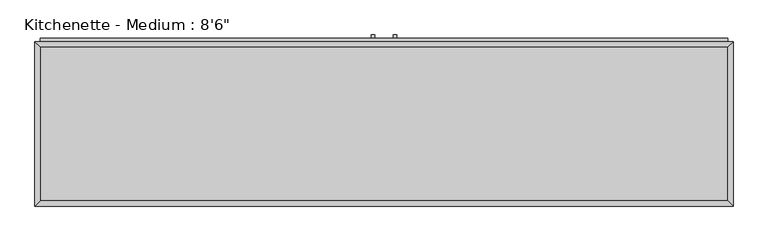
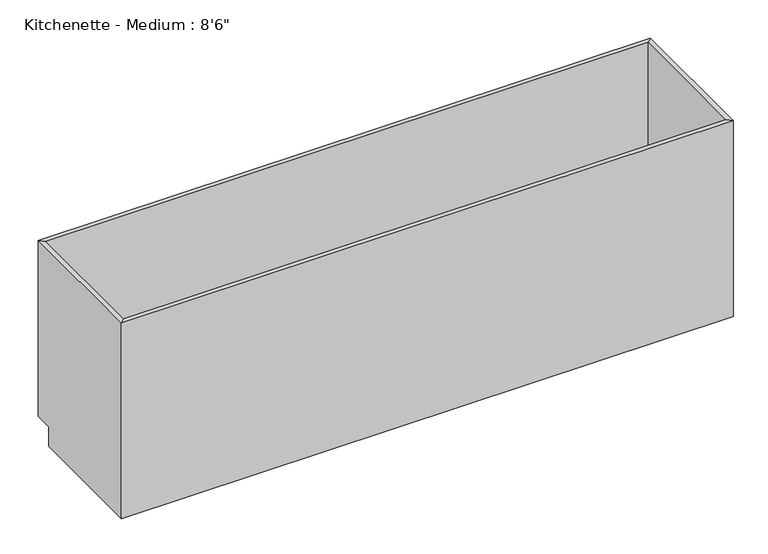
"""IFC4 building model written with IfcOpenShell, lengths in millimetres: proxy geometry."""

from ifc_helpers import new_model, si_unit, frame, origin, place, context, project, spatial, polyline, outline, extrude, faceted_brep, source, transform, mapped, element, save


def proxy_7a545507(model_context):
    return source(origin(), model_context, "Body", "SolidModel", [
        faceted_brep([(1295.0877049, 590.55, 876.3), (-1257.6122951, 590.55, 876.3), (-1257.6122951, 590.55, 88.9), (1295.0877049, 590.55, 88.9), (1314.1377049, 609.6, 876.3), (-1276.6622951, 609.6, 876.3), (1314.1377049, 609.6, 88.9), (-1276.6622951, 609.6, 88.9), (-1257.6122951, 19.05, 876.3), (-1257.6122951, 19.05, 88.9), (-1257.6122951, 533.4, 88.9), (-1276.6622951, 0.0, 876.3), (-1276.6622951, 533.4, 88.9), (-1276.6622951, 533.4, 0.0), (-1276.6622951, 0.0, 0.0), (1295.0877049, 19.05, 876.3), (1295.0877049, 19.05, 88.9), (1314.1377049, 0.0, 876.3), (1314.1377049, 0.0, 0.0), (1295.0877049, 533.4, 88.9), (1314.1377049, 533.4, 0.0), (1314.1377049, 533.4, 88.9)], [[[0, 1, 2, 3]], [[0, 4, 5, 1]], [[4, 6, 7, 5]], [[2, 7, 6, 3]], [[1, 8, 9, 10, 2]], [[5, 11, 8, 1]], [[7, 12, 13, 14, 11, 5]], [[2, 10, 12, 7]], [[8, 15, 16, 9]], [[11, 17, 15, 8]], [[14, 18, 17, 11]], [[3, 19, 16, 15, 0]], [[0, 15, 17, 4]], [[4, 17, 18, 20, 21, 6]], [[6, 21, 19, 3]], [[10, 9, 16, 19]], [[18, 14, 13, 20]], [[13, 12, 10, 19, 21, 20]]]),
        extrude(outline(polyline([(-16.1872951, 635.0), (-16.1872951, 622.3), (-28.8872951, 622.3), (-28.8872951, 635.0), (-16.1872951, 635.0)])), frame((0.0, 0.0, 573.769895), z_axis=(0.0, 0.0, 1.0), x_axis=(1.0, 0.0, 0.0)), (0.0, 0.0, 1.0), 124.730105),
        extrude(outline(polyline([(66.3627049, 635.0), (66.3627049, 622.3), (53.6627049, 622.3), (53.6627049, 635.0), (66.3627049, 635.0)])), frame((0.0, 0.0, 573.769895), z_axis=(0.0, 0.0, 1.0), x_axis=(1.0, 0.0, 0.0)), (0.0, 0.0, 1.0), 124.730105),
        extrude(outline(polyline([(1295.0877049, 19.05), (-1257.6122951, 19.05), (-1257.6122951, 590.55), (1295.0877049, 590.55), (1295.0877049, 19.05)])), frame((0.0, 0.0, 88.9), z_axis=(0.0, 0.0, 1.0), x_axis=(1.0, 0.0, 0.0)), (0.0, 0.0, 1.0), 19.05),
        extrude(outline(polyline([(9.2127049, 622.3), (9.2127049, 609.6), (-1257.6122951, 609.6), (-1257.6122951, 622.3), (9.2127049, 622.3)])), frame((0.0, 0.0, 107.95), z_axis=(0.0, 0.0, 1.0), x_axis=(1.0, 0.0, 0.0)), (0.0, 0.0, 1.0), 628.65),
        extrude(outline(polyline([(1295.0877049, 622.3), (1295.0877049, 609.6), (28.2627049, 609.6), (28.2627049, 622.3), (1295.0877049, 622.3)])), frame((0.0, 0.0, 107.95), z_axis=(0.0, 0.0, 1.0), x_axis=(1.0, 0.0, 0.0)), (0.0, 0.0, 1.0), 628.65),
        extrude(outline(polyline([(1295.0877049, 622.3), (1295.0877049, 609.6), (-1257.6122951, 609.6), (-1257.6122951, 622.3), (1295.0877049, 622.3)])), frame((0.0, 0.0, 755.65), z_axis=(0.0, 0.0, 1.0), x_axis=(1.0, 0.0, 0.0)), (0.0, 0.0, 1.0), 101.6),
    ])


if __name__ == "__main__":
    model = new_model("IFC4")
    model_context = context("Model", 3, world=origin())
    ifc_project = project(units=[si_unit("LENGTHUNIT", "METRE", prefix="MILLI")], contexts=[model_context])
    site = spatial("IfcSite", under=ifc_project)
    building = spatial("IfcBuilding", under=site)
    placement = place(None, origin())
    proxy_shape = proxy_7a545507(model_context)
    element("IfcBuildingElementProxy", 1, Name="Kitchenette - Medium : 8'6\"", ObjectType="Kitchenette - Medium : 8'6\"", at=placement, inside=building, context=model_context, shape_type="MappedRepresentation", body=[
        mapped(proxy_shape, transform((0.0, 0.0, 0.0), x_axis=(1.0, 0.0, 0.0), y_axis=(0.0, 1.0, 0.0), z_axis=(0.0, 0.0, 1.0))),
    ])
    save(model, "model.ifc")
